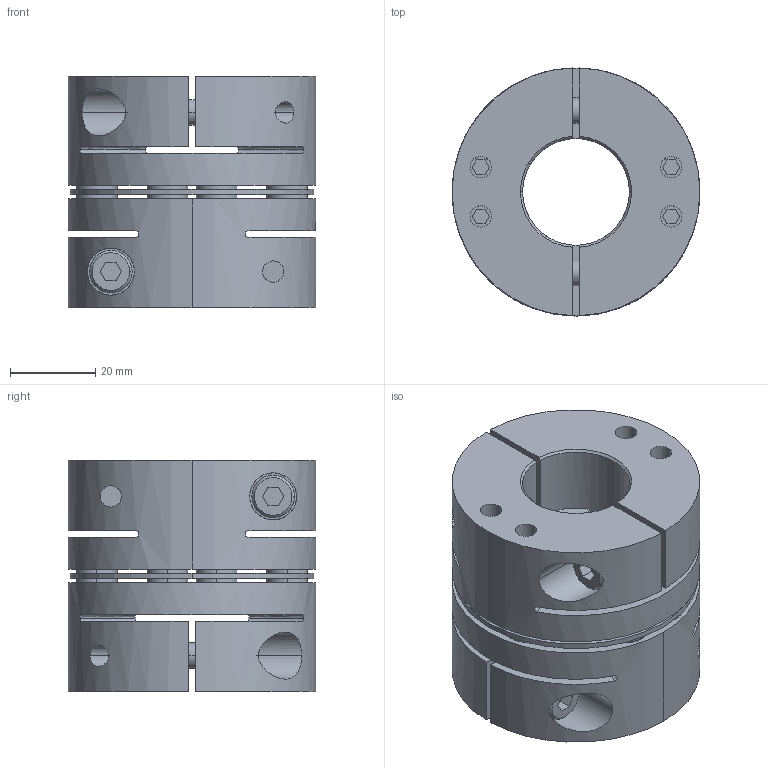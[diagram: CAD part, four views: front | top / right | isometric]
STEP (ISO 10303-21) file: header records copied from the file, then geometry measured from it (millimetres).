
FILE_DESCRIPTION((''),'2;1');
FILE_NAME('TAS-58C-25×30.stp','2022-11-14T22:26:34',(''),(''),'AutoCAD STEP 2000i','AutoCAD 2000i',', , ');
FILE_SCHEMA(('CONFIG_CONTROL_DESIGN'));
Length unit declared in the file: millimetre
Products named in the file (7): TAS-58C-22×22; 忣兜1; TA58C-22-2; CAP-M6×20; TA58C-22; TA58C-12-2; TA58C-12
Assembly tree (9 placements, depth 3):
  TAS-58C-22×22
    忣兜1
    TA58C-22-2
      CAP-M6×20
    TA58C-22
      CAP-M6×20
    TA58C-12-2
      CAP-M6×20
    TA58C-12
      CAP-M6×20
Bounding box: 58 x 58 x 54.25 mm (x, y, z)
Volume: 93127.7 mm3; surface area: 40099.6 mm2
Topology: 1 solids, 1 shells, 360 faces, 903 edges, 645 vertices
Faces by surface type: plane 160, cylinder 148, cone 36, bspline 16
Entity records: 12875 total; most frequent: CARTESIAN_POINT 3843, DIRECTION 1936, ORIENTED_EDGE 1720, EDGE_CURVE 860, AXIS2_PLACEMENT_3D 735, VERTEX_POINT 564, VECTOR 466, LINE 466
